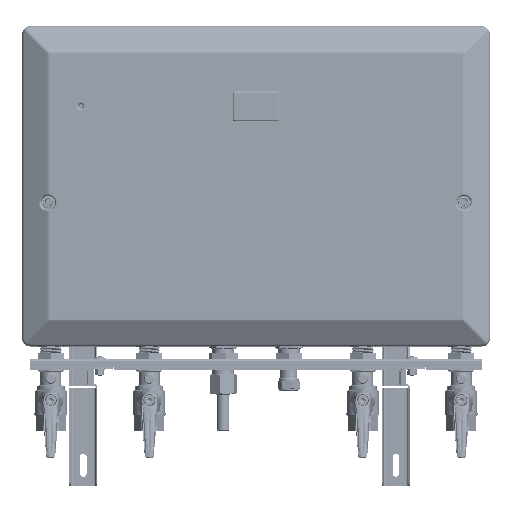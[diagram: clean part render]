
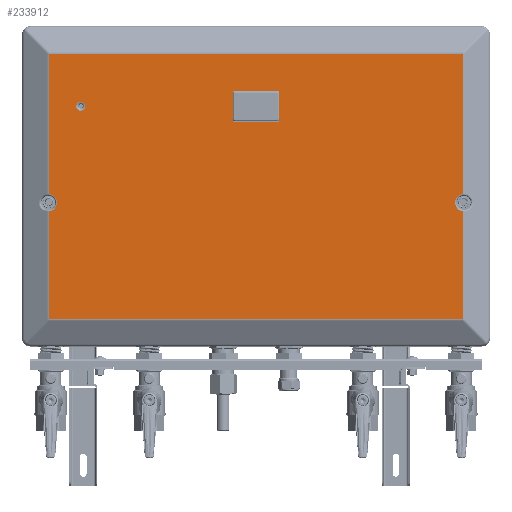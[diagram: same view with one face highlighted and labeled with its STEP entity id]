
A CAD part, top view. The second image highlights one B-rep face of the part: STEP entity #233912.
In plain terms, the highlighted planar face has unit normal (0, 0, 1) as drawn and (0, 0, -1) by its records, which use the part's own axes.
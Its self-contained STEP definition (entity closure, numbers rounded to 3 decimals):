
#11707=PLANE('',#248157);
#19674=LINE('',#347754,#41773);
#19675=LINE('',#347758,#41774);
#19676=LINE('',#347760,#41775);
#19677=LINE('',#347761,#41776);
#19678=LINE('',#347763,#41777);
#19679=LINE('',#347764,#41778);
#19680=LINE('',#347769,#41779);
#19681=LINE('',#347773,#41780);
#19682=LINE('',#347777,#41781);
#19683=LINE('',#347780,#41782);
#41773=VECTOR('',#274296,131.3);
#41774=VECTOR('',#274299,171.3);
#41775=VECTOR('',#274300,503.444);
#41776=VECTOR('',#274301,171.3);
#41777=VECTOR('',#274302,131.3);
#41778=VECTOR('',#274303,503.444);
#41779=VECTOR('',#274306,35.5);
#41780=VECTOR('',#274309,55.);
#41781=VECTOR('',#274312,35.5);
#41782=VECTOR('',#274315,55.);
#67214=FACE_BOUND('',#82573,.T.);
#67215=FACE_BOUND('',#82574,.T.);
#69612=FACE_OUTER_BOUND('',#82572,.T.);
#82572=EDGE_LOOP('',(#172872,#172873,#172874,#172875,#172876,#172877,#172878,
#172879));
#82573=EDGE_LOOP('',(#172880,#172881,#172882,#172883,#172884,#172885,#172886,
#172887));
#82574=EDGE_LOOP('',(#172888));
#96881=CIRCLE('',#247859,5.5);
#96975=CIRCLE('',#247997,10.5);
#97079=CIRCLE('',#248158,10.5);
#97080=CIRCLE('',#248159,1.);
#97081=CIRCLE('',#248160,1.);
#97082=CIRCLE('',#248161,1.);
#97083=CIRCLE('',#248162,1.);
#107233=VERTEX_POINT('',#345368);
#107356=VERTEX_POINT('',#346329);
#107357=VERTEX_POINT('',#346330);
#107717=VERTEX_POINT('',#347752);
#107718=VERTEX_POINT('',#347753);
#107719=VERTEX_POINT('',#347755);
#107720=VERTEX_POINT('',#347757);
#107721=VERTEX_POINT('',#347759);
#107722=VERTEX_POINT('',#347762);
#107723=VERTEX_POINT('',#347765);
#107724=VERTEX_POINT('',#347766);
#107725=VERTEX_POINT('',#347768);
#107726=VERTEX_POINT('',#347770);
#107727=VERTEX_POINT('',#347772);
#107728=VERTEX_POINT('',#347774);
#107729=VERTEX_POINT('',#347776);
#107730=VERTEX_POINT('',#347778);
#133607=EDGE_CURVE('',#107233,#107233,#96881,.T.);
#133746=EDGE_CURVE('',#107356,#107357,#96975,.T.);
#134149=EDGE_CURVE('',#107717,#107718,#19674,.T.);
#134150=EDGE_CURVE('',#107718,#107719,#97079,.T.);
#134151=EDGE_CURVE('',#107719,#107720,#19675,.T.);
#134152=EDGE_CURVE('',#107720,#107721,#19676,.T.);
#134153=EDGE_CURVE('',#107721,#107356,#19677,.T.);
#134154=EDGE_CURVE('',#107357,#107722,#19678,.T.);
#134155=EDGE_CURVE('',#107722,#107717,#19679,.T.);
#134156=EDGE_CURVE('',#107723,#107724,#97080,.T.);
#134157=EDGE_CURVE('',#107725,#107723,#19680,.T.);
#134158=EDGE_CURVE('',#107726,#107725,#97081,.T.);
#134159=EDGE_CURVE('',#107727,#107726,#19681,.T.);
#134160=EDGE_CURVE('',#107728,#107727,#97082,.T.);
#134161=EDGE_CURVE('',#107729,#107728,#19682,.T.);
#134162=EDGE_CURVE('',#107730,#107729,#97083,.T.);
#134163=EDGE_CURVE('',#107724,#107730,#19683,.T.);
#172872=ORIENTED_EDGE('',*,*,#134149,.T.);
#172873=ORIENTED_EDGE('',*,*,#134150,.T.);
#172874=ORIENTED_EDGE('',*,*,#134151,.T.);
#172875=ORIENTED_EDGE('',*,*,#134152,.T.);
#172876=ORIENTED_EDGE('',*,*,#134153,.T.);
#172877=ORIENTED_EDGE('',*,*,#133746,.T.);
#172878=ORIENTED_EDGE('',*,*,#134154,.T.);
#172879=ORIENTED_EDGE('',*,*,#134155,.T.);
#172880=ORIENTED_EDGE('',*,*,#134156,.F.);
#172881=ORIENTED_EDGE('',*,*,#134157,.F.);
#172882=ORIENTED_EDGE('',*,*,#134158,.F.);
#172883=ORIENTED_EDGE('',*,*,#134159,.F.);
#172884=ORIENTED_EDGE('',*,*,#134160,.F.);
#172885=ORIENTED_EDGE('',*,*,#134161,.F.);
#172886=ORIENTED_EDGE('',*,*,#134162,.F.);
#172887=ORIENTED_EDGE('',*,*,#134163,.F.);
#172888=ORIENTED_EDGE('',*,*,#133607,.T.);
#233912=ADVANCED_FACE('',(#69612,#67214,#67215),#11707,.T.);
#247859=AXIS2_PLACEMENT_3D('',#345369,#273421,#273422);
#247997=AXIS2_PLACEMENT_3D('',#346331,#273713,#273714);
#248157=AXIS2_PLACEMENT_3D('',#347751,#274294,#274295);
#248158=AXIS2_PLACEMENT_3D('',#347756,#274297,#274298);
#248159=AXIS2_PLACEMENT_3D('',#347767,#274304,#274305);
#248160=AXIS2_PLACEMENT_3D('',#347771,#274307,#274308);
#248161=AXIS2_PLACEMENT_3D('',#347775,#274310,#274311);
#248162=AXIS2_PLACEMENT_3D('',#347779,#274313,#274314);
#273421=DIRECTION('center_axis',(0.,0.,1.));
#273422=DIRECTION('ref_axis',(-1.,0.,0.));
#273713=DIRECTION('center_axis',(0.,0.,1.));
#273714=DIRECTION('ref_axis',(-1.,0.,0.));
#274294=DIRECTION('center_axis',(0.,0.,
-1.));
#274295=DIRECTION('ref_axis',(-1.,0.,0.));
#274296=DIRECTION('',(0.,1.,0.));
#274297=DIRECTION('center_axis',(0.,0.,1.));
#274298=DIRECTION('ref_axis',(-1.,0.,0.));
#274299=DIRECTION('',(0.,1.,0.));
#274300=DIRECTION('',(1.,0.,0.));
#274301=DIRECTION('',(0.,-1.,0.));
#274302=DIRECTION('',(0.,-1.,0.));
#274303=DIRECTION('',(-1.,0.,0.));
#274304=DIRECTION('center_axis',(0.,0.,-1.));
#274305=DIRECTION('ref_axis',(-1.,0.,0.));
#274306=DIRECTION('',(0.,-1.,0.));
#274307=DIRECTION('center_axis',(0.,0.,-1.));
#274308=DIRECTION('ref_axis',(-1.,0.,0.));
#274309=DIRECTION('',(1.,0.,0.));
#274310=DIRECTION('center_axis',(0.,0.,-1.));
#274311=DIRECTION('ref_axis',(-1.,0.,0.));
#274312=DIRECTION('',(0.,1.,0.));
#274313=DIRECTION('center_axis',(0.,0.,-1.));
#274314=DIRECTION('ref_axis',(-1.,0.,0.));
#274315=DIRECTION('',(-1.,0.,0.));
#345368=CARTESIAN_POINT('',(208.,292.5,-85.));
#345369=CARTESIAN_POINT('Origin',(213.5,292.5,-85.));
#346329=CARTESIAN_POINT('',(251.722,185.422,-85.));
#346330=CARTESIAN_POINT('',(251.722,164.578,-85.));
#346331=CARTESIAN_POINT('Origin',(253.,175.,-85.));
#347751=CARTESIAN_POINT('Origin',(0.,0.,
-85.));
#347752=CARTESIAN_POINT('',(-251.722,33.278,-85.));
#347753=CARTESIAN_POINT('',(-251.722,164.578,-85.));
#347754=CARTESIAN_POINT('',(-251.722,0.,-85.));
#347755=CARTESIAN_POINT('',(-251.722,185.422,-85.));
#347756=CARTESIAN_POINT('Origin',(-253.,175.,-85.));
#347757=CARTESIAN_POINT('',(-251.722,356.722,-85.));
#347758=CARTESIAN_POINT('',(-251.722,0.,-85.));
#347759=CARTESIAN_POINT('',(251.722,356.722,-85.));
#347760=CARTESIAN_POINT('',(0.,356.722,-85.));
#347761=CARTESIAN_POINT('',(251.722,0.,-85.));
#347762=CARTESIAN_POINT('',(251.722,33.278,-85.));
#347763=CARTESIAN_POINT('',(251.722,0.,-85.));
#347764=CARTESIAN_POINT('',(0.,33.278,-85.));
#347765=CARTESIAN_POINT('',(28.5,274.75,-85.));
#347766=CARTESIAN_POINT('',(27.5,273.75,-85.));
#347767=CARTESIAN_POINT('Origin',(27.5,274.75,-85.));
#347768=CARTESIAN_POINT('',(28.5,310.25,-85.));
#347769=CARTESIAN_POINT('',(28.5,310.25,-85.));
#347770=CARTESIAN_POINT('',(27.5,311.25,-85.));
#347771=CARTESIAN_POINT('Origin',(27.5,310.25,-85.));
#347772=CARTESIAN_POINT('',(-27.5,311.25,-85.));
#347773=CARTESIAN_POINT('',(27.5,311.25,-85.));
#347774=CARTESIAN_POINT('',(-28.5,310.25,-85.));
#347775=CARTESIAN_POINT('Origin',(-27.5,310.25,-85.));
#347776=CARTESIAN_POINT('',(-28.5,274.75,-85.));
#347777=CARTESIAN_POINT('',(-28.5,310.25,-85.));
#347778=CARTESIAN_POINT('',(-27.5,273.75,-85.));
#347779=CARTESIAN_POINT('Origin',(-27.5,274.75,-85.));
#347780=CARTESIAN_POINT('',(27.5,273.75,-85.));
